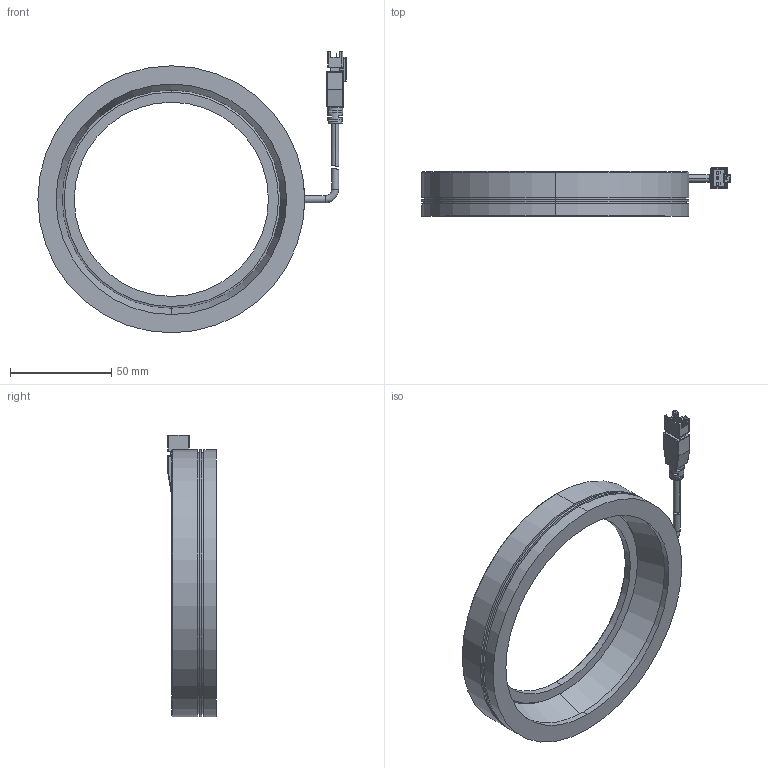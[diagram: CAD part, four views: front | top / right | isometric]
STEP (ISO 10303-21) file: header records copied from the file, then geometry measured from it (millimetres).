
FILE_DESCRIPTION (( 'STEP AP214' ), '1' );
FILE_NAME ('CST-RS13220-潠眢3D芞.STEP', '2022-09-23T02:52:36', ( 'Windows User' ), ( 'P R C' ), 'SwSTEP 2.0', 'SolidWorks 2018', '' );
FILE_SCHEMA (( 'AUTOMOTIVE_DESIGN' ));
Length unit declared in the file: millimetre
Products named in the file (1): CST-RS13220-潠眢3D芞
Bounding box: 152.45 x 23.85 x 139.23 mm (x, y, z)
Surface area: 36608.9 mm2 (no closed solid volume)
Topology: 0 solids, 3 shells, 267 faces, 698 edges, 425 vertices
Faces by surface type: plane 123, cylinder 86, bspline 28, cone 24, torus 6
Entity records: 11567 total; most frequent: CARTESIAN_POINT 2262, DIRECTION 1321, ORIENTED_EDGE 1301, EDGE_CURVE 674, AXIS2_PLACEMENT_3D 460, VERTEX_POINT 425, LINE 401, VECTOR 401
